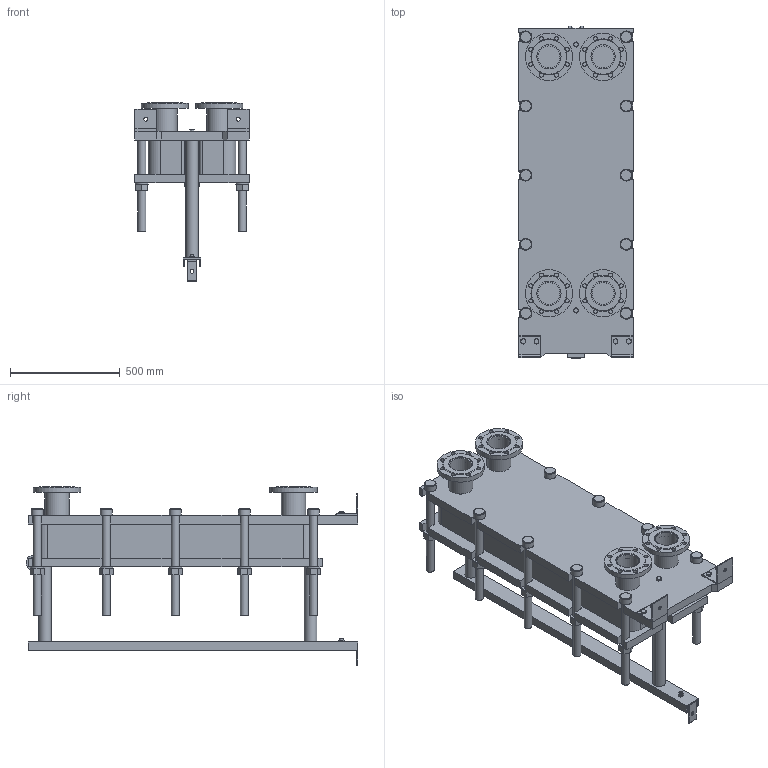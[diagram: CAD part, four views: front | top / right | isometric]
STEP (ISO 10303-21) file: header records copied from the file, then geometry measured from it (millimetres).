
FILE_DESCRIPTION(/* description */ (''),/* implementation_level */ '2;1');
FILE_NAME(/* name */ 'C:\Users\zhuro\Desktop\ENCO\TO\ЭН-04\ЭН-0,5-04-45-1.stp',/* time_stamp */ '2022-06-06T10:47:57+03:00',/* author */ ('zhuro'),/* organization */ (''),/* preprocessor_version */ 'ST-DEVELOPER v18.1',/* originating_system */ 'Autodesk Inventor 2022',/* authorisation */ '');
FILE_SCHEMA (('AUTOMOTIVE_DESIGN { 1 0 10303 214 3 1 1 }'));
Length unit declared in the file: millimetre
Products named in the file (1): ЭН-0,5-04-45-1
Bounding box: 520 x 1510 x 812.5 mm (x, y, z)
Volume: 145832240.8 mm3; surface area: 7145806.7 mm2
Topology: 45 solids, 45 shells, 668 faces, 1611 edges, 1048 vertices
Faces by surface type: plane 457, cylinder 166, cone 39, torus 6
Full cylindrical faces by diameter (mm): 8 x4, 10 x2, 16 x8, 18 x35, 36 x25, 40 x2, 42 x1, 45 x4, 54 x10, 57 x2, 60 x10, 68 x2, 100 x4, 110 x8, 215 x4
Entity records: 23607 total; most frequent: CARTESIAN_POINT 7348, DIRECTION 3371, ORIENTED_EDGE 3142, EDGE_CURVE 1571, AXIS2_PLACEMENT_3D 1199, VERTEX_POINT 1044, LINE 973, VECTOR 973
